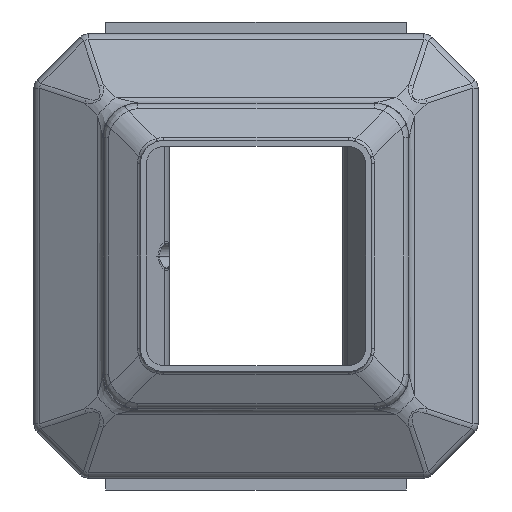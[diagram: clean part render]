
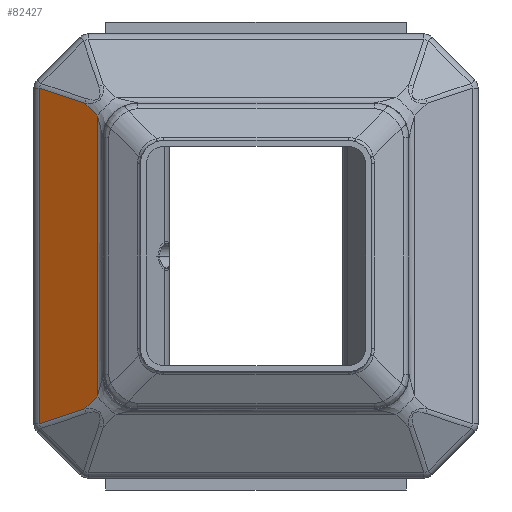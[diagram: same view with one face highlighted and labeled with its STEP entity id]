
A CAD part, left-side view. The second image highlights one B-rep face of the part: STEP entity #82427.
In plain terms, the highlighted planar face has unit normal (-0.848, 0.53, 0).
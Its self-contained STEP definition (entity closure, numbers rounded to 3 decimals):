
#56626=DIRECTION('',(0.,0.,-1.));
#56627=VECTOR('',#56626,97.042);
#56628=CARTESIAN_POINT('',(-104.941,54.88,
48.521));
#56629=LINE('',#56628,#56627);
#56644=CARTESIAN_POINT('',(-104.941,54.88,
48.521));
#56688=DIRECTION('',(0.404,0.647,0.647));
#56689=VECTOR('',#56688,6.858);
#56690=CARTESIAN_POINT('',(-104.941,54.88,
48.521));
#56691=LINE('',#56690,#56689);
#56750=DIRECTION('',(-0.51,-0.817,-0.27));
#56751=VECTOR('',#56750,19.354);
#56752=CARTESIAN_POINT('',(-92.292,75.12,
58.177));
#56753=LINE('',#56752,#56751);
#56772=DIRECTION('',(0.51,0.817,-0.27));
#56773=VECTOR('',#56772,19.354);
#56774=CARTESIAN_POINT('',(-102.169,59.316,
-52.956));
#56775=LINE('',#56774,#56773);
#56835=DIRECTION('',(0.404,0.647,-0.647));
#56836=VECTOR('',#56835,6.858);
#56837=CARTESIAN_POINT('',(-104.941,54.88,
-48.521));
#56838=LINE('',#56837,#56836);
#56884=CARTESIAN_POINT('',(-104.941,54.88,
-48.521));
#57238=DIRECTION('',(0.,0.,-1.));
#57239=VECTOR('',#57238,116.354);
#57240=CARTESIAN_POINT('',(-92.292,75.12,
58.177));
#57241=LINE('',#57240,#57239);
#60413=VERTEX_POINT('',#56884);
#60415=VERTEX_POINT('',#56644);
#60572=CARTESIAN_POINT('',(-92.292,75.12,
58.177));
#60573=VERTEX_POINT('',#60572);
#60576=CARTESIAN_POINT('',(-102.169,59.316,
52.956));
#60577=VERTEX_POINT('',#60576);
#61142=CARTESIAN_POINT('',(-102.169,59.316,
-52.956));
#61143=CARTESIAN_POINT('',(-92.292,75.12,
-58.177));
#61144=VERTEX_POINT('',#61142);
#61145=VERTEX_POINT('',#61143);
#82411=CARTESIAN_POINT('',(-92.292,75.12,-80.));
#82412=DIRECTION('',(-0.848,0.53,0.));
#82413=DIRECTION('',(-0.53,-0.848,0.));
#82414=AXIS2_PLACEMENT_3D('',#82411,#82412,#82413);
#82415=PLANE('',#82414);
#82417=ORIENTED_EDGE('',*,*,#82416,.T.);
#82419=ORIENTED_EDGE('',*,*,#82418,.F.);
#82420=ORIENTED_EDGE('',*,*,#82404,.T.);
#82421=ORIENTED_EDGE('',*,*,#82298,.F.);
#82422=ORIENTED_EDGE('',*,*,#82210,.T.);
#82424=ORIENTED_EDGE('',*,*,#82423,.T.);
#82425=EDGE_LOOP('',(#82417,#82419,#82420,#82421,#82422,#82424));
#82426=FACE_OUTER_BOUND('',#82425,.F.);
#82210=EDGE_CURVE('',#60415,#60413,#56629,.T.);
#82298=EDGE_CURVE('',#60415,#60577,#56691,.T.);
#82404=EDGE_CURVE('',#60573,#60577,#56753,.T.);
#82416=EDGE_CURVE('',#61144,#61145,#56775,.T.);
#82418=EDGE_CURVE('',#60573,#61145,#57241,.T.);
#82423=EDGE_CURVE('',#60413,#61144,#56838,.T.);
#82427=ADVANCED_FACE('',(#82426),#82415,.T.);
